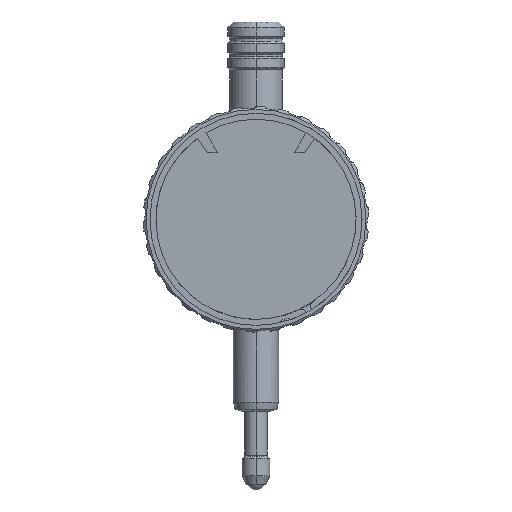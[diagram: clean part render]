
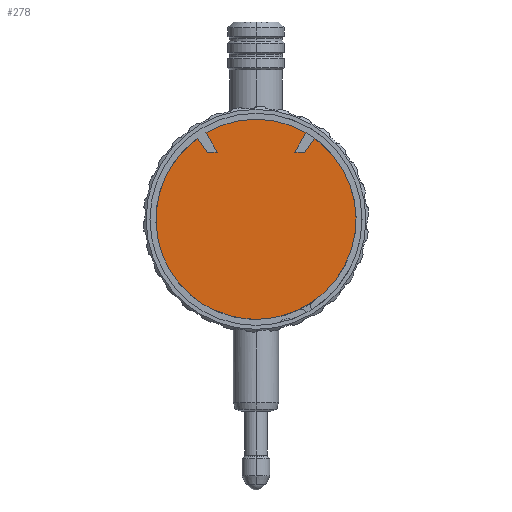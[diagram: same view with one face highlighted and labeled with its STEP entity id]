
A CAD part, front view. The second image highlights one B-rep face of the part: STEP entity #278.
In plain terms, the highlighted planar face has unit normal (0, -1, 0).
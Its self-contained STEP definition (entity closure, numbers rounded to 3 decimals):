
#278=ADVANCED_FACE('',(#788),#789,.F.);
#788=FACE_OUTER_BOUND('',#1357,.T.);
#789=PLANE('',#1358);
#1357=EDGE_LOOP('',(#3394,#3395,#3396,#3397,#3398,#3399,#3400,#3401,#3402,#3403,#3404,#3405));
#1358=AXIS2_PLACEMENT_3D('',#3406,#3407,#3408);
#3394=ORIENTED_EDGE('',*,*,#3792,.T.);
#3395=ORIENTED_EDGE('',*,*,#4397,.T.);
#3396=ORIENTED_EDGE('',*,*,#4398,.T.);
#3397=ORIENTED_EDGE('',*,*,#4399,.T.);
#3398=ORIENTED_EDGE('',*,*,#3798,.T.);
#3399=ORIENTED_EDGE('',*,*,#3804,.T.);
#3400=ORIENTED_EDGE('',*,*,#4400,.T.);
#3401=ORIENTED_EDGE('',*,*,#4401,.T.);
#3402=ORIENTED_EDGE('',*,*,#4402,.T.);
#3403=ORIENTED_EDGE('',*,*,#4403,.T.);
#3404=ORIENTED_EDGE('',*,*,#4404,.T.);
#3405=ORIENTED_EDGE('',*,*,#3806,.T.);
#3406=CARTESIAN_POINT('',(0.0,-12.15,0.));
#3407=DIRECTION('',(0.0,1.0,0.0));
#3408=DIRECTION('',(-1.0,0.0,0.0));
#3792=EDGE_CURVE('',#4686,#4683,#4687,.T.);
#3798=EDGE_CURVE('',#4692,#4696,#4698,.T.);
#3804=EDGE_CURVE('',#4696,#4707,#4710,.T.);
#3806=EDGE_CURVE('',#4712,#4686,#4713,.T.);
#4397=EDGE_CURVE('',#4683,#5679,#5680,.T.);
#4398=EDGE_CURVE('',#5679,#5681,#5682,.T.);
#4399=EDGE_CURVE('',#5681,#4692,#5683,.T.);
#4400=EDGE_CURVE('',#4707,#5684,#5685,.T.);
#4401=EDGE_CURVE('',#5684,#5686,#5687,.T.);
#4402=EDGE_CURVE('',#5686,#5688,#5689,.T.);
#4403=EDGE_CURVE('',#5688,#5690,#5691,.T.);
#4404=EDGE_CURVE('',#5690,#4712,#5692,.T.);
#4683=VERTEX_POINT('',#5909);
#4686=VERTEX_POINT('',#5913);
#4687=CIRCLE('',#5914,0.75);
#4692=VERTEX_POINT('',#5920);
#4696=VERTEX_POINT('',#5925);
#4698=CIRCLE('',#5928,0.75);
#4707=VERTEX_POINT('',#5939);
#4710=CIRCLE('',#5943,17.75);
#4712=VERTEX_POINT('',#5945);
#4713=CIRCLE('',#5946,17.75);
#5679=VERTEX_POINT('',#11873);
#5680=CIRCLE('',#11874,0.75);
#5681=VERTEX_POINT('',#11875);
#5682=CIRCLE('',#11876,18.8);
#5683=CIRCLE('',#11877,0.75);
#5684=VERTEX_POINT('',#11878);
#5685=CIRCLE('',#11879,17.75);
#5686=VERTEX_POINT('',#11880);
#5687=LINE('',#11881,#11882);
#5688=VERTEX_POINT('',#11883);
#5689=LINE('',#11884,#11885);
#5690=VERTEX_POINT('',#11886);
#5691=LINE('',#11887,#11888);
#5692=CIRCLE('',#11889,17.75);
#5909=CARTESIAN_POINT('',(-9.745,-12.15,-15.679));
#5913=CARTESIAN_POINT('',(-9.973,-12.15,-14.683));
#5914=AXIS2_PLACEMENT_3D('',#12154,#12155,#12156);
#5920=CARTESIAN_POINT('',(-8.706,-12.15,-16.279));
#5925=CARTESIAN_POINT('',(-7.73,-12.15,-15.979));
#5928=AXIS2_PLACEMENT_3D('',#12166,#12167,#12168);
#5939=CARTESIAN_POINT('',(15.372,-12.15,8.875));
#5943=AXIS2_PLACEMENT_3D('',#12178,#12179,#12180);
#5945=CARTESIAN_POINT('',(-15.372,-12.15,-8.875));
#5946=AXIS2_PLACEMENT_3D('',#12184,#12185,#12186);
#11873=CARTESIAN_POINT('',(-9.983,-12.15,-15.931));
#11874=AXIS2_PLACEMENT_3D('',#12849,#12850,#12851);
#11875=CARTESIAN_POINT('',(-8.805,-12.15,-16.611));
#11876=AXIS2_PLACEMENT_3D('',#12852,#12853,#12854);
#11877=AXIS2_PLACEMENT_3D('',#12855,#12856,#12857);
#11878=CARTESIAN_POINT('',(10.388,-12.15,14.393));
#11879=AXIS2_PLACEMENT_3D('',#12858,#12859,#12860);
#11880=CARTESIAN_POINT('',(8.595,-12.15,11.908));
#11881=CARTESIAN_POINT('',(4.746,-12.15,6.575));
#11882=VECTOR('',#12861,1.0);
#11883=CARTESIAN_POINT('',(6.875,-12.15,11.908));
#11884=CARTESIAN_POINT('',(3.867,-12.15,11.908));
#11885=VECTOR('',#12862,1.0);
#11886=CARTESIAN_POINT('',(8.875,-12.15,15.372));
#11887=CARTESIAN_POINT('',(3.938,-12.15,6.82));
#11888=VECTOR('',#12863,1.0);
#11889=AXIS2_PLACEMENT_3D('',#12864,#12865,#12866);
#12154=CARTESIAN_POINT('',(-10.394,-12.15,-15.304));
#12155=DIRECTION('',(0.0,1.0,0.0));
#12156=DIRECTION('',(0.866,-0.0,-0.5));
#12166=CARTESIAN_POINT('',(-8.056,-12.15,-16.654));
#12167=DIRECTION('',(0.0,1.0,0.0));
#12168=DIRECTION('',(0.866,-0.0,-0.5));
#12178=CARTESIAN_POINT('',(0.0,-12.15,0.));
#12179=DIRECTION('',(0.0,-1.0,0.0));
#12180=DIRECTION('',(0.866,0.0,0.5));
#12184=CARTESIAN_POINT('',(0.0,-12.15,0.));
#12185=DIRECTION('',(0.0,-1.0,0.0));
#12186=DIRECTION('',(0.866,0.0,0.5));
#12849=CARTESIAN_POINT('',(-10.394,-12.15,-15.304));
#12850=DIRECTION('',(0.0,1.0,0.0));
#12851=DIRECTION('',(0.866,-0.0,-0.5));
#12852=CARTESIAN_POINT('',(0.0,-12.15,0.));
#12853=DIRECTION('',(0.0,-1.0,0.0));
#12854=DIRECTION('',(-1.0,0.0,0.0));
#12855=CARTESIAN_POINT('',(-8.056,-12.15,-16.654));
#12856=DIRECTION('',(0.0,1.0,0.0));
#12857=DIRECTION('',(0.866,-0.0,-0.5));
#12858=CARTESIAN_POINT('',(0.0,-12.15,0.));
#12859=DIRECTION('',(0.0,-1.0,0.0));
#12860=DIRECTION('',(0.866,0.0,0.5));
#12861=DIRECTION('',(-0.585,0.0,-0.811));
#12862=DIRECTION('',(-1.0,0.0,0.));
#12863=DIRECTION('',(0.5,0.0,0.866));
#12864=CARTESIAN_POINT('',(0.0,-12.15,0.));
#12865=DIRECTION('',(0.0,-1.0,0.0));
#12866=DIRECTION('',(0.866,0.0,0.5));
